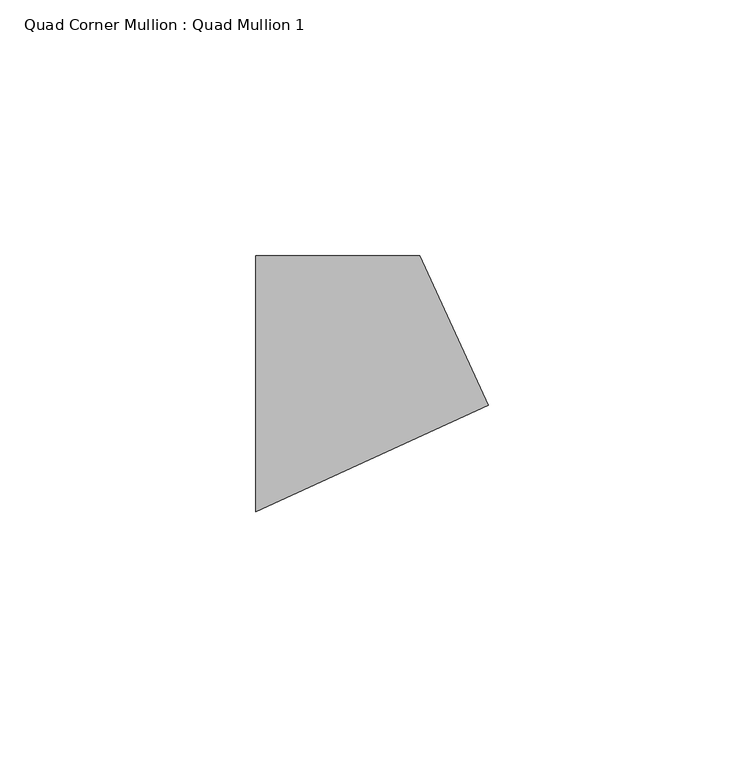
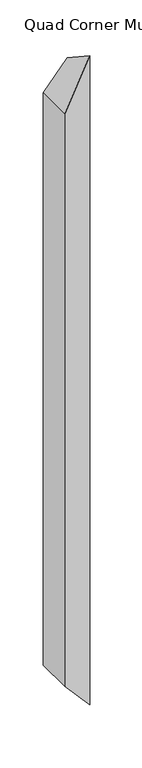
"""IFC4 building model written with IfcOpenShell, lengths in millimetres: member geometry, Quad Corner Mullion : Quad Mullion 1."""

from ifc_helpers import new_model, si_unit, origin, place, context, project, spatial, faceted_brep, source, transform, mapped, element, save


def quad_corner_mullion_quad_mullion_1_0f215ac0(model_context):
    return source(origin(), model_context, "Body", "Brep", [
        faceted_brep([(16.0523154, 25.0, 19.2278993), (29.4125559, -4.1926582, 35.2311582), (29.4125559, -4.1926582, -884.5377304), (16.0523154, 25.0, -868.5379459), (-16.0523154, 25.0, -19.2278993), (-16.0523154, 25.0, -830.0904962), (-16.0523154, -25.0, -19.2278993), (-16.0523154, -25.0, -830.0904962)], [[[0, 1, 2, 3]], [[4, 0, 3, 5]], [[6, 4, 5, 7]], [[1, 6, 7, 2]], [[1, 0, 4, 6]], [[2, 7, 5, 3]]]),
    ])


if __name__ == "__main__":
    model = new_model("IFC4")
    model_context = context("Model", 3, world=origin())
    ifc_project = project(units=[si_unit("LENGTHUNIT", "METRE", prefix="MILLI")], contexts=[model_context])
    site = spatial("IfcSite", under=ifc_project)
    building = spatial("IfcBuilding", under=site)
    placement = place(None, origin())
    quad_corner_mullion_quad_mullion_1_shape = quad_corner_mullion_quad_mullion_1_0f215ac0(model_context)
    element("IfcMember", 1, ObjectType="Quad Corner Mullion : Quad Mullion 1", at=placement, inside=building, context=model_context, shape_type="MappedRepresentation", body=[
        mapped(quad_corner_mullion_quad_mullion_1_shape, transform((0.0, 0.0, 0.0), x_axis=(1.0, 0.0, 0.0), y_axis=(0.0, 1.0, 0.0), z_axis=(0.0, 0.0, 1.0))),
    ])
    save(model, "model.ifc")
